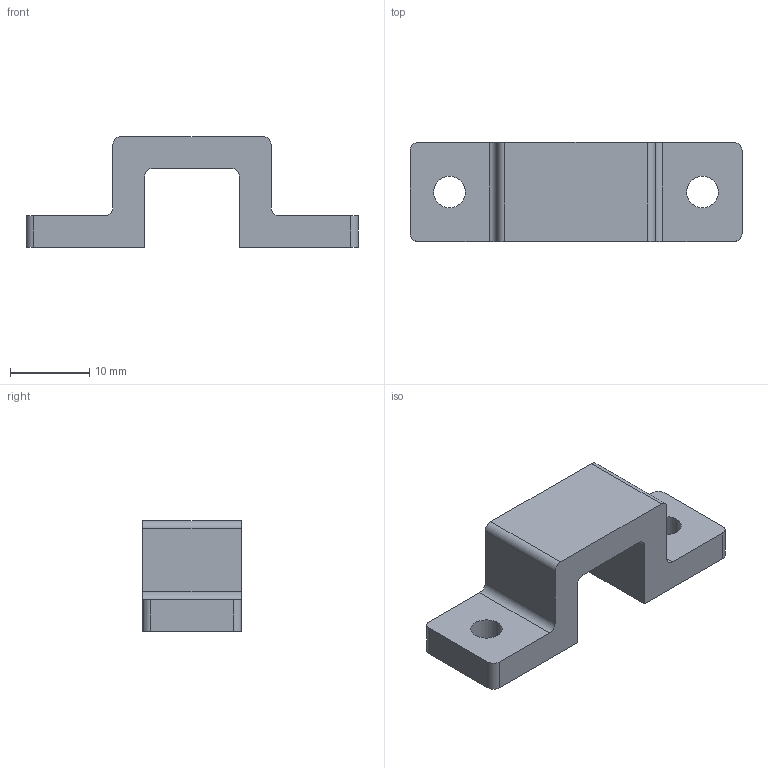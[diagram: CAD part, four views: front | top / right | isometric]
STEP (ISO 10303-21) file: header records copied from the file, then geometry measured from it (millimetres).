
FILE_DESCRIPTION(/* description */ (''),/* implementation_level */ '2;1');
FILE_NAME(/* name */ 'Clamp for N20 Motor.step',/* time_stamp */ '2025-07-09T13:18:20+05:30',/* author */ (''),/* organization */ (''),/* preprocessor_version */ 'ST-DEVELOPER v20.1',/* originating_system */ 'Autodesk Translation Framework v14.10.0.0',/* authorisation */ '');
FILE_SCHEMA (('AUTOMOTIVE_DESIGN { 1 0 10303 214 3 1 1 }'));
Length unit declared in the file: millimetre
Products named in the file (1): Clamp for N20 Motor
Bounding box: 42 x 12.5 x 14 mm (x, y, z)
Volume: 3001.4 mm3; surface area: 2156.3 mm2
Topology: 1 solids, 1 shells, 26 faces, 72 edges, 48 vertices
Faces by surface type: plane 14, cylinder 12
Full cylindrical faces by diameter (mm): 4 x2
Entity records: 888 total; most frequent: DIRECTION 150, CARTESIAN_POINT 147, ORIENTED_EDGE 144, EDGE_CURVE 72, AXIS2_PLACEMENT_3D 51, LINE 48, VECTOR 48, VERTEX_POINT 48
